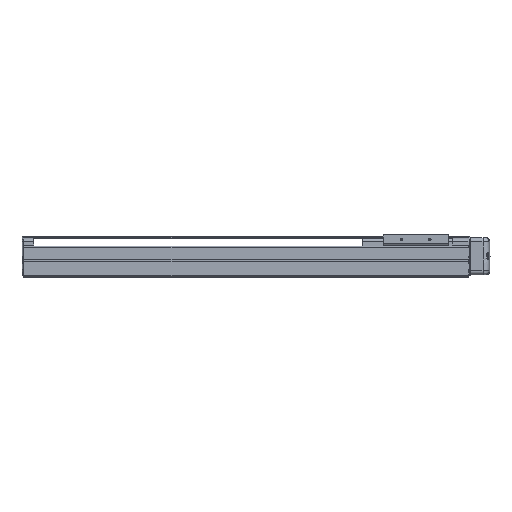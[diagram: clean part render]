
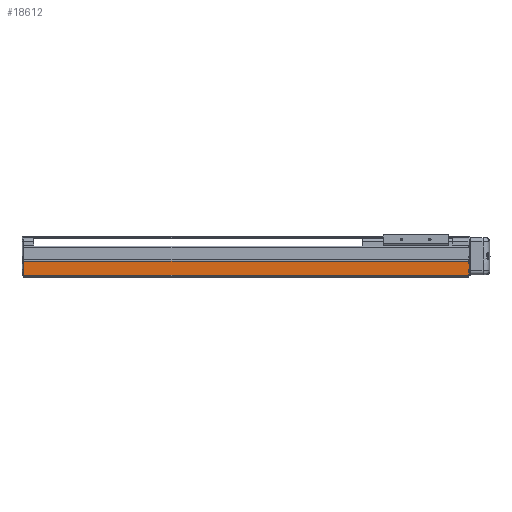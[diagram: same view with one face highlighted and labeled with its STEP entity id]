
A CAD part, top view. The second image highlights one B-rep face of the part: STEP entity #18612.
In plain terms, the highlighted planar face has unit normal (0, 0, 1).
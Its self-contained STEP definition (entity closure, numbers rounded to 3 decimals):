
#2924=DIRECTION('',(-1.,0.,0.));
#2925=VECTOR('',#2924,791.);
#2926=CARTESIAN_POINT('',(791.,28.9,39.));
#2927=LINE('',#2926,#2925);
#2936=DIRECTION('',(0.,1.,0.));
#2937=VECTOR('',#2936,3.9);
#2938=CARTESIAN_POINT('',(791.,25.,39.));
#2939=LINE('',#2938,#2937);
#2940=DIRECTION('',(0.,1.,0.));
#2941=VECTOR('',#2940,9.5);
#2942=CARTESIAN_POINT('',(791.,4.5,39.));
#2943=LINE('',#2942,#2941);
#2944=DIRECTION('',(0.,-1.,0.));
#2945=VECTOR('',#2944,24.4);
#2946=CARTESIAN_POINT('',(0.,28.9,39.));
#2947=LINE('',#2946,#2945);
#2957=DIRECTION('',(-1.,0.,0.));
#2958=VECTOR('',#2957,0.7);
#2959=CARTESIAN_POINT('',(791.7,25.,39.));
#2960=LINE('',#2959,#2958);
#10733=DIRECTION('',(0.,1.,0.));
#10734=VECTOR('',#10733,11.);
#10735=CARTESIAN_POINT('',(791.7,14.,39.));
#10736=LINE('',#10735,#10734);
#10834=DIRECTION('',(1.,0.,0.));
#10835=VECTOR('',#10834,0.7);
#10836=CARTESIAN_POINT('',(791.,14.,39.));
#10837=LINE('',#10836,#10835);
#10872=DIRECTION('',(1.,0.,0.));
#10873=VECTOR('',#10872,791.);
#10874=CARTESIAN_POINT('',(0.,4.5,39.));
#10875=LINE('',#10874,#10873);
#13047=CARTESIAN_POINT('',(0.,4.5,39.));
#13048=VERTEX_POINT('',#13047);
#13049=CARTESIAN_POINT('',(0.,28.9,39.));
#13050=VERTEX_POINT('',#13049);
#13163=CARTESIAN_POINT('',(791.,28.9,39.));
#13164=VERTEX_POINT('',#13163);
#13166=CARTESIAN_POINT('',(791.,4.5,39.));
#13168=VERTEX_POINT('',#13166);
#14094=CARTESIAN_POINT('',(791.7,14.,39.));
#14095=CARTESIAN_POINT('',(791.7,25.,39.));
#14096=VERTEX_POINT('',#14094);
#14097=VERTEX_POINT('',#14095);
#14690=CARTESIAN_POINT('',(791.,14.,39.));
#14691=VERTEX_POINT('',#14690);
#14692=CARTESIAN_POINT('',(791.,25.,39.));
#14694=VERTEX_POINT('',#14692);
#18593=CARTESIAN_POINT('',(395.5,16.7,39.));
#18594=DIRECTION('',(0.,0.,1.));
#18595=DIRECTION('',(0.,-1.,0.));
#18596=AXIS2_PLACEMENT_3D('',#18593,#18594,#18595);
#18597=PLANE('',#18596);
#18598=ORIENTED_EDGE('',*,*,#16659,.F.);
#18600=ORIENTED_EDGE('',*,*,#18599,.F.);
#18602=ORIENTED_EDGE('',*,*,#18601,.F.);
#18604=ORIENTED_EDGE('',*,*,#18603,.F.);
#18605=ORIENTED_EDGE('',*,*,#16807,.F.);
#18607=ORIENTED_EDGE('',*,*,#18606,.F.);
#18608=ORIENTED_EDGE('',*,*,#17897,.F.);
#18609=ORIENTED_EDGE('',*,*,#18586,.F.);
#18610=EDGE_LOOP('',(#18598,#18600,#18602,#18604,#18605,#18607,#18608,#18609));
#18611=FACE_OUTER_BOUND('',#18610,.F.);
#18612=ADVANCED_FACE('',(#18611),#18597,.T.);
#16659=EDGE_CURVE('',#14694,#13164,#2939,.T.);
#16807=EDGE_CURVE('',#13168,#14691,#2943,.T.);
#17897=EDGE_CURVE('',#13050,#13048,#2947,.T.);
#18586=EDGE_CURVE('',#13164,#13050,#2927,.T.);
#18599=EDGE_CURVE('',#14097,#14694,#2960,.T.);
#18601=EDGE_CURVE('',#14096,#14097,#10736,.T.);
#18603=EDGE_CURVE('',#14691,#14096,#10837,.T.);
#18606=EDGE_CURVE('',#13048,#13168,#10875,.T.);
